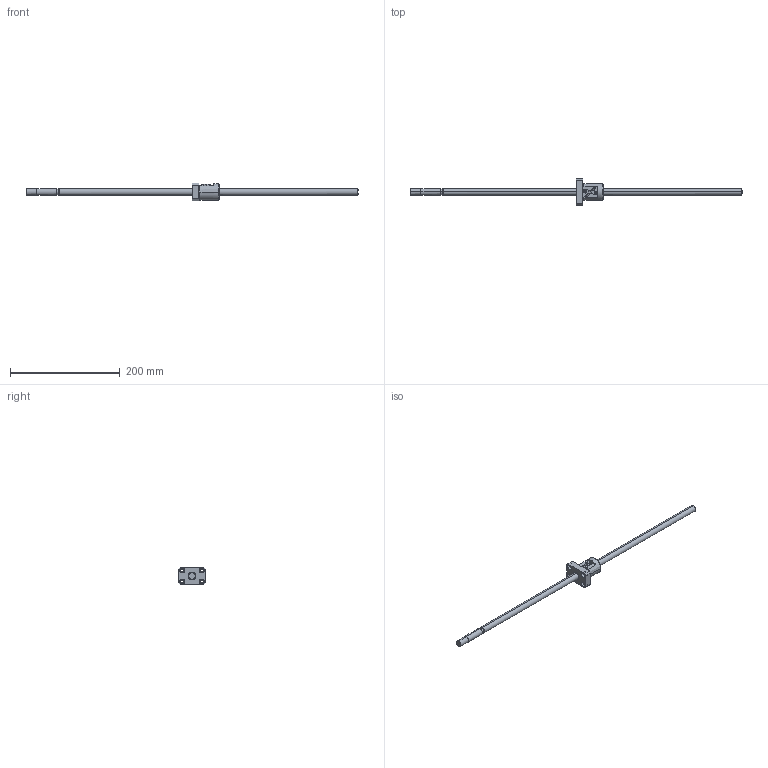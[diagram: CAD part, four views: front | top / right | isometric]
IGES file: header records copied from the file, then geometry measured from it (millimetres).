
Global section: file name: No Iges File Name specified; native system: AutoDesk Inventor R10; preprocessor: AutoDesk Inventor Iges Exporter R10; author: No Author specified; organization: No Organization specified; date: 20101224.140224; units: millimetre
Bounding box: 605 x 48 x 32 mm (x, y, z)
Surface area: 34487.4 mm2 (no closed solid volume)
Topology: 0 solids, 0 shells, 132 faces, 970 edges, 970 vertices
Faces by surface type: bspline 132
